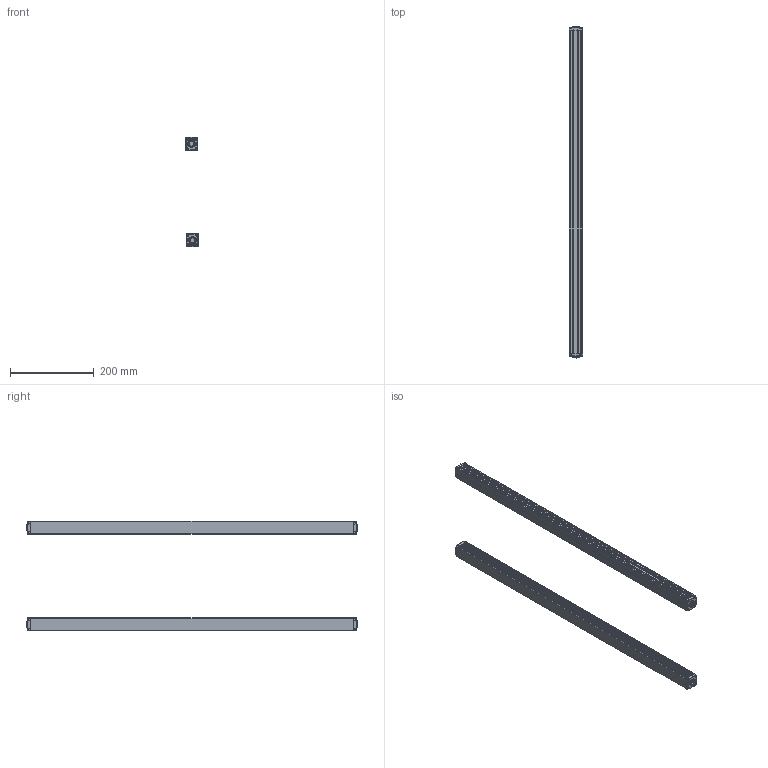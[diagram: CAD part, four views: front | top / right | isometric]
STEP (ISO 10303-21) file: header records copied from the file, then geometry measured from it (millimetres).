
FILE_DESCRIPTION (( 'STEP AP203' ), '1' );
FILE_NAME ('ZDA3820-770.STEP', '2023-02-27T06:26:12', ( 'User' ), ( 'China' ), 'SwSTEP 2.0', 'SolidWorks 2020', '' );
FILE_SCHEMA (( 'CONFIG_CONTROL_DESIGN' ));
Length unit declared in the file: millimetre
Products named in the file (5): 錨璃8; 錨璃1; 錨璃8 - 萵掛 (2); ZDA3820-770; 錨璃10
Assembly tree (7 placements, depth 2):
  ZDA3820-770
    錨璃1  x2
    錨璃8  x2
    錨璃8 - 萵掛 (2)  x2
    錨璃10
Bounding box: 32.26 x 791.4 x 260.24 mm (x, y, z)
Volume: 464683.9 mm3; surface area: 491706.2 mm2
Topology: 7 solids, 7 shells, 1050 faces, 2738 edges, 1696 vertices
Faces by surface type: plane 468, cylinder 318, cone 120, bspline 64, torus 48, sphere 32
Entity records: 18298 total; most frequent: CARTESIAN_POINT 4907, ORIENTED_EDGE 2726, DIRECTION 2656, EDGE_CURVE 1363, AXIS2_PLACEMENT_3D 906, VERTEX_POINT 852, VECTOR 844, LINE 844
